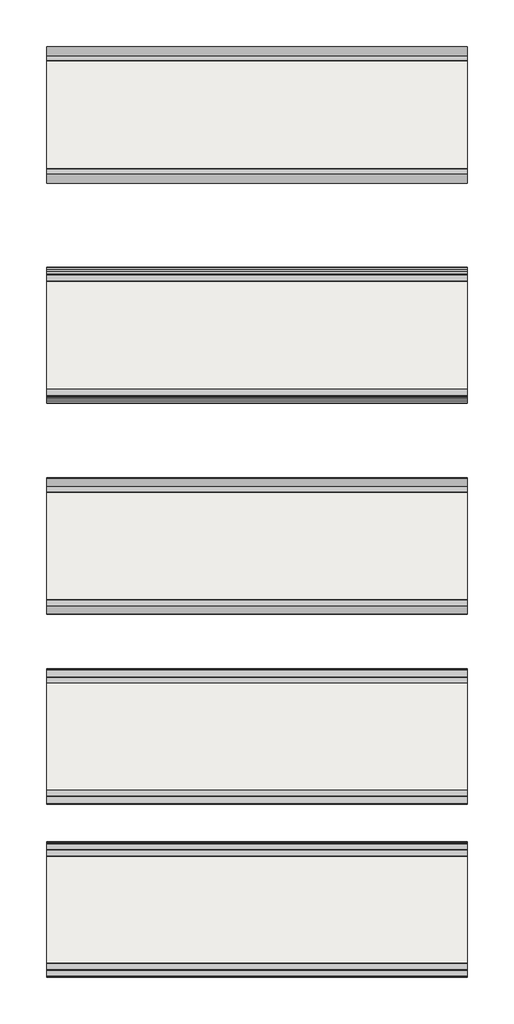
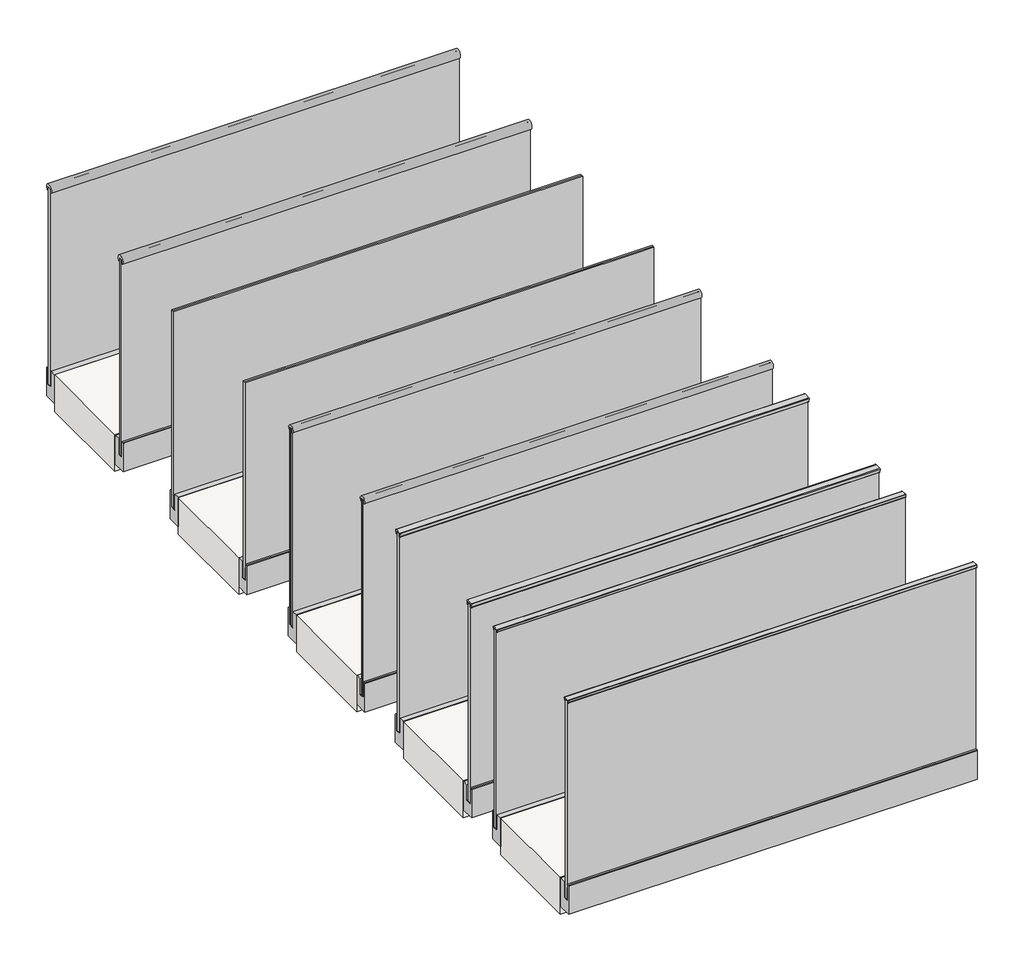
# One storey: 10 railings, 5 slabs.
"""IFC4 building model written with IfcOpenShell, lengths in millimetres."""

from ifc_helpers import new_model, si_unit, frame, origin, place, context, project, spatial, polyline, outline, extrude, transform, mapped, element, save
from components import railing_4a85fa71, railing_11fd886b, railing_73ee000f, railing_65ec6db7, railing_9bcaf8d0, railing_399f807e, railing_76994909, railing_f1bae4d5, railing_30ff9a55, railing_aee8ae82

model = new_model("IFC4")

# Units and contexts
model_context = context("Model", 3, world=origin())
ifc_project = project(units=[si_unit("LENGTHUNIT", "METRE", prefix="MILLI")], contexts=[model_context])

# Site, building, storey
site = spatial("IfcSite", under=ifc_project)
building = spatial("IfcBuilding", under=site)
storey = spatial("IfcBuildingStorey", under=building, Name="Glass Railings - Faraone - Ninfa 186", Elevation=0.0)

# Railings
placement = place(None, origin())
railing_shape = railing_4a85fa71(model_context)
element("IfcRailing", 1, ObjectType="Glass Railing (10+10) - Faraone - Ninfa 186 - Fascia mounted - Elipse Handrail 50", at=placement, inside=storey, context=model_context, shape_type="MappedRepresentation", body=[
    mapped(railing_shape, transform((0.0, 0.0, 0.0), x_axis=(1.0, 0.0, 0.0), y_axis=(0.0, 1.0, 0.0), z_axis=(0.0, 0.0, 1.0))),
])
railing_2_shape = railing_11fd886b(model_context)
element("IfcRailing", 2, ObjectType="Glass Railing (8+8) - Faraone - Ninfa 186 - Fascia mounted - Elipse Handrail 50", at=placement, inside=storey, context=model_context, shape_type="MappedRepresentation", body=[
    mapped(railing_2_shape, transform((0.0, 0.0, 0.0), x_axis=(1.0, 0.0, 0.0), y_axis=(0.0, 1.0, 0.0), z_axis=(0.0, 0.0, 1.0))),
])
railing_3_shape = railing_73ee000f(model_context)
element("IfcRailing", 3, ObjectType="Glass Railing (10+10) - Faraone - Ninfa 186 - Fascia mounted - Elipse Handrail 42.4", at=placement, inside=storey, context=model_context, shape_type="MappedRepresentation", body=[
    mapped(railing_3_shape, transform((0.0, 0.0, 0.0), x_axis=(1.0, 0.0, 0.0), y_axis=(0.0, 1.0, 0.0), z_axis=(0.0, 0.0, 1.0))),
])
railing_4_shape = railing_65ec6db7(model_context)
element("IfcRailing", 4, ObjectType="Glass Railing (8+8) - Faraone - Ninfa 186 - Fascia mounted - Elipse Handrail 42.4", at=placement, inside=storey, context=model_context, shape_type="MappedRepresentation", body=[
    mapped(railing_4_shape, transform((0.0, 0.0, 0.0), x_axis=(1.0, 0.0, 0.0), y_axis=(0.0, 1.0, 0.0), z_axis=(0.0, 0.0, 1.0))),
])
railing_5_shape = railing_9bcaf8d0(model_context)
element("IfcRailing", 5, ObjectType="Glass Railing (10+10) - Faraone - Ninfa 186 - Fascia mounted - Trapez Handrail 42", at=placement, inside=storey, context=model_context, shape_type="MappedRepresentation", body=[
    mapped(railing_5_shape, transform((0.0, 0.0, 0.0), x_axis=(1.0, 0.0, 0.0), y_axis=(0.0, 1.0, 0.0), z_axis=(0.0, 0.0, 1.0))),
])
railing_6_shape = railing_399f807e(model_context)
element("IfcRailing", 6, ObjectType="Glass Railing (8+8) - Faraone - Ninfa 186 - Fascia mounted - Trapez Handrail 42", at=placement, inside=storey, context=model_context, shape_type="MappedRepresentation", body=[
    mapped(railing_6_shape, transform((0.0, 0.0, 0.0), x_axis=(1.0, 0.0, 0.0), y_axis=(0.0, 1.0, 0.0), z_axis=(0.0, 0.0, 1.0))),
])
railing_7_shape = railing_76994909(model_context)
element("IfcRailing", 7, ObjectType="Glass Railing (10+10) - Faraone - Ninfa 186 - Fascia mounted - Trapez Handrail 30", at=placement, inside=storey, context=model_context, shape_type="MappedRepresentation", body=[
    mapped(railing_7_shape, transform((0.0, 0.0, 0.0), x_axis=(1.0, 0.0, 0.0), y_axis=(0.0, 1.0, 0.0), z_axis=(0.0, 0.0, 1.0))),
])
railing_8_shape = railing_f1bae4d5(model_context)
element("IfcRailing", 8, ObjectType="Glass Railing (8+8) - Faraone - Ninfa 186 - Fascia mounted - Trapez Handrail 30", at=placement, inside=storey, context=model_context, shape_type="MappedRepresentation", body=[
    mapped(railing_8_shape, transform((0.0, 0.0, 0.0), x_axis=(1.0, 0.0, 0.0), y_axis=(0.0, 1.0, 0.0), z_axis=(0.0, 0.0, 1.0))),
])
railing_9_shape = railing_30ff9a55(model_context)
element("IfcRailing", 9, ObjectType="Glass Railing (8+8) - Faraone - Ninfa 186 - Fascia mounted - Without Handrail", at=placement, inside=storey, context=model_context, shape_type="MappedRepresentation", body=[
    mapped(railing_9_shape, transform((0.0, 0.0, 0.0), x_axis=(1.0, 0.0, 0.0), y_axis=(0.0, 1.0, 0.0), z_axis=(0.0, 0.0, 1.0))),
])
railing_10_shape = railing_aee8ae82(model_context)
element("IfcRailing", 10, ObjectType="Glass Railing (10+10) - Faraone - Ninfa 186 - Fascia mounted - Without Handrail", at=placement, inside=storey, context=model_context, shape_type="MappedRepresentation", body=[
    mapped(railing_10_shape, transform((0.0, 0.0, 0.0), x_axis=(1.0, 0.0, 0.0), y_axis=(0.0, 1.0, 0.0), z_axis=(0.0, 0.0, 1.0))),
])

# Slabs
element("IfcSlab", 11, ObjectType="Floor-Grnd-Susp_65Scr-80Ins-100Blk-75PC", at=placement, inside=storey, context=model_context, shape_type="SweptSolid", body=[
    extrude(outline(polyline([(6682.6376845, 640.6889907), (6682.6376845, 49.0353302), (4362.6376845, 49.0353302), (4362.6376845, 640.6889907), (6682.6376845, 640.6889907)])), frame((0.0, 0.0, -220.0), z_axis=(0.0, 0.0, 1.0), x_axis=(1.0, 0.0, 0.0)), (0.0, 0.0, 1.0), 220.0),
])
element("IfcSlab", 12, ObjectType="Floor-Grnd-Susp_65Scr-80Ins-100Blk-75PC", at=placement, inside=storey, context=model_context, shape_type="SweptSolid", body=[
    extrude(outline(polyline([(6682.6376845, -1736.9072523), (6682.6376845, -2328.5609128), (4362.6376845, -2328.5609128), (4362.6376845, -1736.9072523), (6682.6376845, -1736.9072523)])), frame((0.0, 0.0, -220.0), z_axis=(0.0, 0.0, 1.0), x_axis=(1.0, 0.0, 0.0)), (0.0, 0.0, 1.0), 220.0),
])
element("IfcSlab", 13, ObjectType="Floor-Grnd-Susp_65Scr-80Ins-100Blk-75PC", at=placement, inside=storey, context=model_context, shape_type="SweptSolid", body=[
    extrude(outline(polyline([(6682.6376845, -2789.5045007), (6682.6376845, -3376.3581612), (4362.6376845, -3376.3581612), (4362.6376845, -2789.5045007), (6682.6376845, -2789.5045007)])), frame((0.0, 0.0, -220.0), z_axis=(0.0, 0.0, 1.0), x_axis=(1.0, 0.0, 0.0)), (0.0, 0.0, 1.0), 220.0),
])
element("IfcSlab", 14, ObjectType="Floor-Grnd-Susp_65Scr-80Ins-100Blk-75PC", at=placement, inside=storey, context=model_context, shape_type="SweptSolid", body=[
    extrude(outline(polyline([(6682.6376845, -3744.327572), (6682.6376845, -4331.1812325), (4362.6376845, -4331.1812325), (4362.6376845, -3744.327572), (6682.6376845, -3744.327572)])), frame((0.0, 0.0, -220.0), z_axis=(0.0, 0.0, 1.0), x_axis=(1.0, 0.0, 0.0)), (0.0, 0.0, 1.0), 220.0),
])
element("IfcSlab", 15, ObjectType="Floor-Grnd-Susp_65Scr-80Ins-100Blk-75PC", at=placement, inside=storey, context=model_context, shape_type="SweptSolid", body=[
    extrude(outline(polyline([(6682.6376845, -574.7462367), (6682.6376845, -1166.3998971), (4362.6376845, -1166.3998971), (4362.6376845, -574.7462367), (6682.6376845, -574.7462367)])), frame((0.0, 0.0, -220.0), z_axis=(0.0, 0.0, 1.0), x_axis=(1.0, 0.0, 0.0)), (0.0, 0.0, 1.0), 220.0),
])

save(model, "model.ifc")
